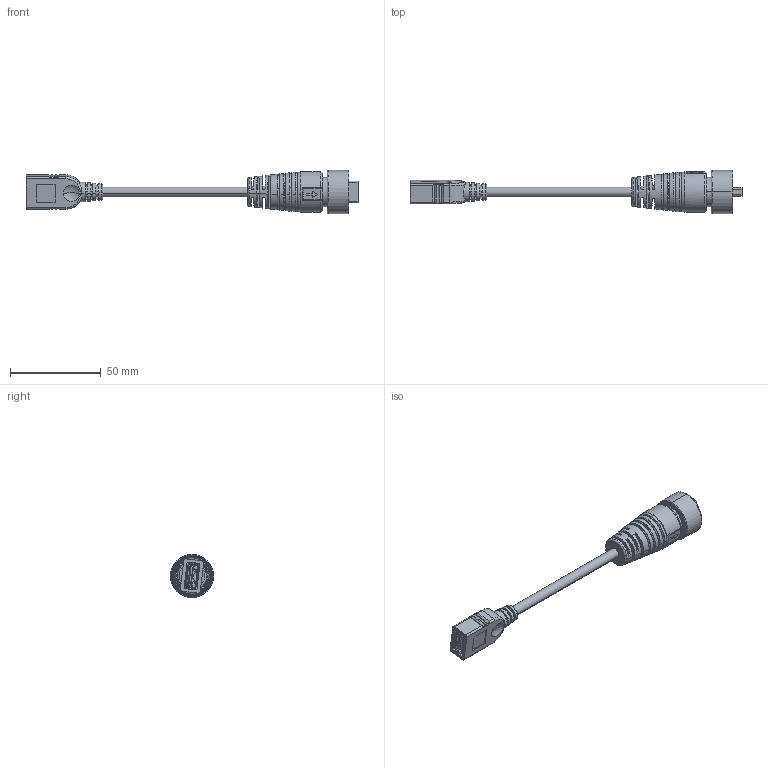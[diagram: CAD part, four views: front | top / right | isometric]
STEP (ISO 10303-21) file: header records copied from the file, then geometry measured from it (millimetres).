
FILE_DESCRIPTION (( 'STEP AP203' ), '1' );
FILE_NAME ('GT218320-03-XX.STEP', '2016-01-18T03:17:32', ( '' ), ( '' ), 'SwSTEP 2.0', 'SolidWorks 2012', '' );
FILE_SCHEMA (( 'CONFIG_CONTROL_DESIGN' ));
Length unit declared in the file: millimetre
Products named in the file (14): GT218320-03-XX; RR-AF; USB A 3.0 F; 83002(PIN); 83002(BASE); 83002(FRAM); AF; Cable 5.5; 66216-30010; GT116320-01-XX; 70116-37101; 67116-00110; MALE CONNECTOR(FRAM); 69116-34101
Assembly tree (16 placements, depth 4):
  GT218320-03-XX
    GT116320-01-XX
      69116-34101
      MALE CONNECTOR(FRAM)
      67116-00110
      70116-37101
    66216-30010
    Cable 5.5
    RR-AF
      AF
      USB A 3.0 F
        83002(FRAM)
        83002(BASE)
        83002(PIN)  x4
Bounding box: 183.1 x 24 x 24 mm (x, y, z)
Volume: 29887.6 mm3; surface area: 18340.6 mm2
Topology: 13 solids, 13 shells, 857 faces, 2359 edges, 1538 vertices
Faces by surface type: plane 543, cylinder 178, bspline 53, cone 49, torus 30, sphere 4
Entity records: 31075 total; most frequent: CARTESIAN_POINT 10435, ORIENTED_EDGE 4274, DIRECTION 3649, EDGE_CURVE 2137, VECTOR 1421, LINE 1421, VERTEX_POINT 1394, AXIS2_PLACEMENT_3D 1114
